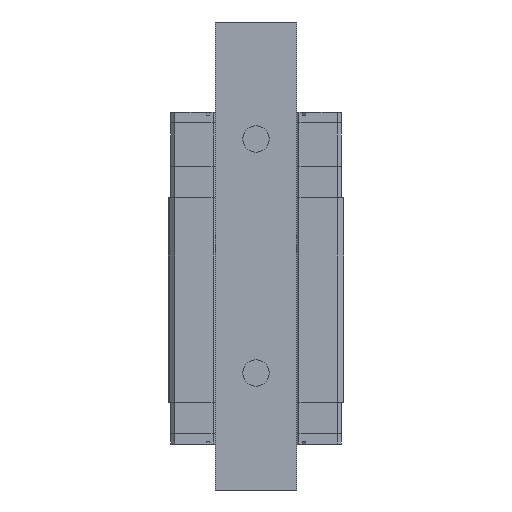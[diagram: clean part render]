
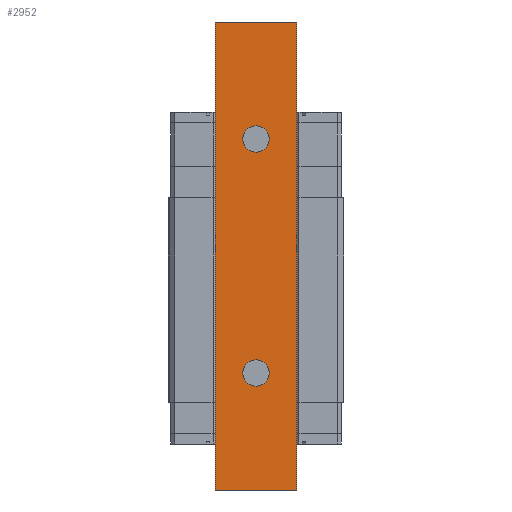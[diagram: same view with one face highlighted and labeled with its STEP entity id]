
A CAD part, front view. The second image highlights one B-rep face of the part: STEP entity #2952.
In plain terms, the highlighted planar face has unit normal (0, -1, 0).
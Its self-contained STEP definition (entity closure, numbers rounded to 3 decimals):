
#51 = DIRECTION ( 'NONE',  ( 1., 0., 0. ) ) ;
#150 = CARTESIAN_POINT ( 'NONE',  ( -14., -5.5, -80. ) ) ;
#174 = ORIENTED_EDGE ( 'NONE', *, *, #1389, .F. ) ;
#659 = EDGE_CURVE ( 'NONE', #11434, #8137, #20396, .T. ) ;
#763 = VECTOR ( 'NONE', #5263, 1000. ) ;
#1200 = DIRECTION ( 'NONE',  ( 0., 0., -1. ) ) ;
#1206 = CIRCLE ( 'NONE', #16877, 4.5 ) ;
#1288 = CARTESIAN_POINT ( 'NONE',  ( 0., -5.5, 40. ) ) ;
#1306 = ORIENTED_EDGE ( 'NONE', *, *, #22149, .F. ) ;
#1389 = EDGE_CURVE ( 'NONE', #12608, #10157, #1206, .T. ) ;
#1391 = DIRECTION ( 'NONE',  ( 0., -1., 0. ) ) ;
#2573 = ORIENTED_EDGE ( 'NONE', *, *, #22894, .T. ) ;
#2581 = DIRECTION ( 'NONE',  ( -1., 0., 0. ) ) ;
#2850 = CARTESIAN_POINT ( 'NONE',  ( 14., -5.5, -80. ) ) ;
#2952 = ADVANCED_FACE ( 'NONE', ( #22021, #17641, #21674 ), #23158, .F. ) ;
#3164 = CARTESIAN_POINT ( 'NONE',  ( -14., -5.5, -80. ) ) ;
#3359 = CARTESIAN_POINT ( 'NONE',  ( 0., -5.5, -40. ) ) ;
#3593 = EDGE_CURVE ( 'NONE', #19403, #25240, #28849, .T. ) ;
#3864 = CARTESIAN_POINT ( 'NONE',  ( -14., -5.5, 80. ) ) ;
#4877 = ORIENTED_EDGE ( 'NONE', *, *, #659, .F. ) ;
#5242 = DIRECTION ( 'NONE',  ( 0., 0., -1. ) ) ;
#5263 = DIRECTION ( 'NONE',  ( 0., 0., -1. ) ) ;
#8137 = VERTEX_POINT ( 'NONE', #17909 ) ;
#8345 = DIRECTION ( 'NONE',  ( 0., -1., 0. ) ) ;
#8495 = LINE ( 'NONE', #12220, #763 ) ;
#9619 = CARTESIAN_POINT ( 'NONE',  ( -14., -5.5, 80. ) ) ;
#9798 = ORIENTED_EDGE ( 'NONE', *, *, #30234, .F. ) ;
#10157 = VERTEX_POINT ( 'NONE', #22381 ) ;
#11434 = VERTEX_POINT ( 'NONE', #18548 ) ;
#11510 = DIRECTION ( 'NONE',  ( 1., 0., 0. ) ) ;
#11595 = DIRECTION ( 'NONE',  ( 0., 1., 0. ) ) ;
#11710 = CARTESIAN_POINT ( 'NONE',  ( -14., -5.5, 80. ) ) ;
#12220 = CARTESIAN_POINT ( 'NONE',  ( 14., -5.5, 80. ) ) ;
#12608 = VERTEX_POINT ( 'NONE', #23659 ) ;
#12757 = VERTEX_POINT ( 'NONE', #21192 ) ;
#13237 = CARTESIAN_POINT ( 'NONE',  ( 0., -5.5, -40. ) ) ;
#13520 = EDGE_LOOP ( 'NONE', ( #25873, #4877 ) ) ;
#14151 = LINE ( 'NONE', #3864, #30152 ) ;
#14885 = DIRECTION ( 'NONE',  ( 0., -1., 0. ) ) ;
#15600 = DIRECTION ( 'NONE',  ( 0., 0., -1. ) ) ;
#16877 = AXIS2_PLACEMENT_3D ( 'NONE', #21962, #14885, #5242 ) ;
#17555 = VECTOR ( 'NONE', #51, 1000. ) ;
#17641 = FACE_BOUND ( 'NONE', #27354, .T. ) ;
#17909 = CARTESIAN_POINT ( 'NONE',  ( 0., -5.5, -44.5 ) ) ;
#18198 = EDGE_CURVE ( 'NONE', #8137, #11434, #28354, .T. ) ;
#18548 = CARTESIAN_POINT ( 'NONE',  ( 0., -5.5, -35.5 ) ) ;
#19403 = VERTEX_POINT ( 'NONE', #3164 ) ;
#19474 = VECTOR ( 'NONE', #11510, 1000. ) ;
#19611 = AXIS2_PLACEMENT_3D ( 'NONE', #13237, #8345, #15600 ) ;
#20270 = DIRECTION ( 'NONE',  ( 0., 0., -1. ) ) ;
#20396 = CIRCLE ( 'NONE', #19611, 4.5 ) ;
#21192 = CARTESIAN_POINT ( 'NONE',  ( 14., -5.5, 80. ) ) ;
#21674 = FACE_OUTER_BOUND ( 'NONE', #26629, .T. ) ;
#21835 = ORIENTED_EDGE ( 'NONE', *, *, #28000, .F. ) ;
#21962 = CARTESIAN_POINT ( 'NONE',  ( 0., -5.5, 40. ) ) ;
#22021 = FACE_BOUND ( 'NONE', #13520, .T. ) ;
#22149 = EDGE_CURVE ( 'NONE', #10157, #12608, #22556, .T. ) ;
#22381 = CARTESIAN_POINT ( 'NONE',  ( 0., -5.5, 35.5 ) ) ;
#22556 = CIRCLE ( 'NONE', #25609, 4.5 ) ;
#22749 = LINE ( 'NONE', #11710, #19474 ) ;
#22894 = EDGE_CURVE ( 'NONE', #23396, #19403, #14151, .T. ) ;
#23158 = PLANE ( 'NONE',  #29928 ) ;
#23396 = VERTEX_POINT ( 'NONE', #9619 ) ;
#23659 = CARTESIAN_POINT ( 'NONE',  ( 0., -5.5, 44.5 ) ) ;
#23961 = AXIS2_PLACEMENT_3D ( 'NONE', #3359, #26683, #1200 ) ;
#25240 = VERTEX_POINT ( 'NONE', #2850 ) ;
#25609 = AXIS2_PLACEMENT_3D ( 'NONE', #1288, #1391, #27149 ) ;
#25873 = ORIENTED_EDGE ( 'NONE', *, *, #18198, .F. ) ;
#25915 = CARTESIAN_POINT ( 'NONE',  ( -14., -5.5, 80. ) ) ;
#26629 = EDGE_LOOP ( 'NONE', ( #2573, #29439, #9798, #21835 ) ) ;
#26683 = DIRECTION ( 'NONE',  ( 0., -1., 0. ) ) ;
#27149 = DIRECTION ( 'NONE',  ( 0., 0., -1. ) ) ;
#27354 = EDGE_LOOP ( 'NONE', ( #1306, #174 ) ) ;
#28000 = EDGE_CURVE ( 'NONE', #23396, #12757, #22749, .T. ) ;
#28354 = CIRCLE ( 'NONE', #23961, 4.5 ) ;
#28849 = LINE ( 'NONE', #150, #17555 ) ;
#29439 = ORIENTED_EDGE ( 'NONE', *, *, #3593, .T. ) ;
#29928 = AXIS2_PLACEMENT_3D ( 'NONE', #25915, #11595, #2581 ) ;
#30152 = VECTOR ( 'NONE', #20270, 1000. ) ;
#30234 = EDGE_CURVE ( 'NONE', #12757, #25240, #8495, .T. ) ;
